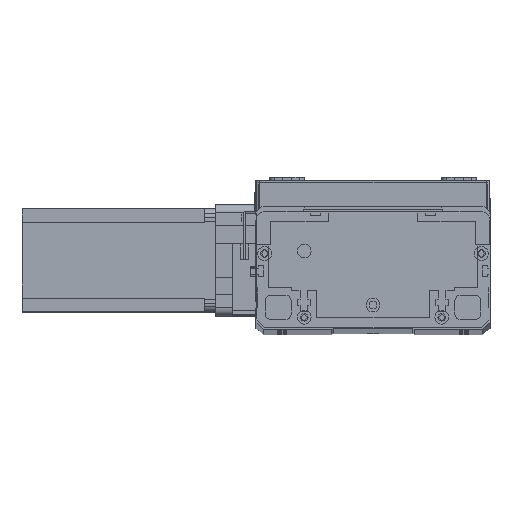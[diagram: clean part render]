
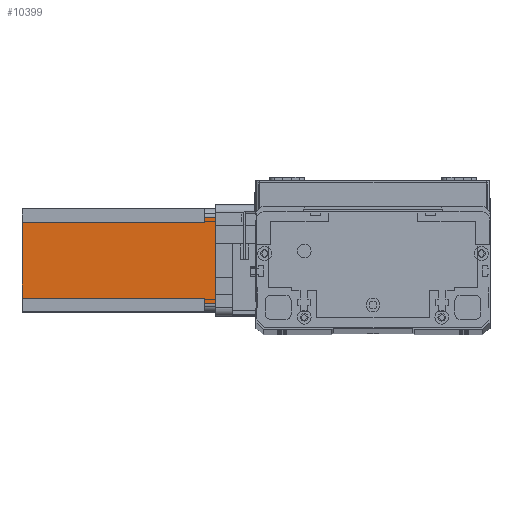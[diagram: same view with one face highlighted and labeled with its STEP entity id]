
A CAD part, top view. The second image highlights one B-rep face of the part: STEP entity #10399.
In plain terms, the highlighted planar face has unit normal (0, 0, 1) as drawn and (0, -1, 0) by its records, which use the part's own axes.
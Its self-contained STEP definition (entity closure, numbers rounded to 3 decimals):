
#991 = ORIENTED_EDGE ( 'NONE', *, *, #16507, .F. ) ;
#1287 = DIRECTION ( 'NONE',  ( -1., 0., 0. ) ) ;
#1807 = CARTESIAN_POINT ( 'NONE',  ( 5., 0., -6.5 ) ) ;
#2048 = DIRECTION ( 'NONE',  ( 1., 0., 0. ) ) ;
#2073 = FACE_OUTER_BOUND ( 'NONE', #12711, .T. ) ;
#2578 = CARTESIAN_POINT ( 'NONE',  ( 8., 0., -6.5 ) ) ;
#2715 = ORIENTED_EDGE ( 'NONE', *, *, #23647, .F. ) ;
#2731 = EDGE_CURVE ( 'NONE', #16647, #4312, #15574, .T. ) ;
#3186 = CARTESIAN_POINT ( 'NONE',  ( 8., 0., -112.5 ) ) ;
#4241 = CARTESIAN_POINT ( 'NONE',  ( 55., 0., -6.5 ) ) ;
#4312 = VERTEX_POINT ( 'NONE', #19018 ) ;
#4737 = VECTOR ( 'NONE', #1287, 1000. ) ;
#5271 = DIRECTION ( 'NONE',  ( 0., 0., 1. ) ) ;
#5548 = ORIENTED_EDGE ( 'NONE', *, *, #19605, .T. ) ;
#7252 = EDGE_CURVE ( 'NONE', #21661, #4312, #10989, .T. ) ;
#7360 = DIRECTION ( 'NONE',  ( 1., 0., 0. ) ) ;
#7480 = ORIENTED_EDGE ( 'NONE', *, *, #10864, .T. ) ;
#8308 = CARTESIAN_POINT ( 'NONE',  ( 5., 0., 0. ) ) ;
#9209 = VERTEX_POINT ( 'NONE', #8308 ) ;
#10399 = ADVANCED_FACE ( 'NONE', ( #2073 ), #23374, .T. ) ;
#10769 = LINE ( 'NONE', #18573, #20990 ) ;
#10864 = EDGE_CURVE ( 'NONE', #21661, #22529, #16612, .T. ) ;
#10989 = LINE ( 'NONE', #25286, #25851 ) ;
#11148 = VECTOR ( 'NONE', #23937, 1000. ) ;
#12711 = EDGE_LOOP ( 'NONE', ( #7480, #13214, #991, #5548, #2715, #18875, #17081, #20743 ) ) ;
#12783 = EDGE_CURVE ( 'NONE', #22529, #22287, #23992, .T. ) ;
#13214 = ORIENTED_EDGE ( 'NONE', *, *, #12783, .T. ) ;
#13283 = DIRECTION ( 'NONE',  ( 0., 0., -1. ) ) ;
#13672 = CARTESIAN_POINT ( 'NONE',  ( 0., 0., -112.5 ) ) ;
#13981 = DIRECTION ( 'NONE',  ( 0., 0., 1. ) ) ;
#14131 = DIRECTION ( 'NONE',  ( 0., 0., -1. ) ) ;
#14352 = VECTOR ( 'NONE', #14131, 1000. ) ;
#15111 = LINE ( 'NONE', #15766, #4737 ) ;
#15535 = LINE ( 'NONE', #3186, #26238 ) ;
#15574 = LINE ( 'NONE', #13672, #20978 ) ;
#15766 = CARTESIAN_POINT ( 'NONE',  ( 8., 0., -6.5 ) ) ;
#16178 = CARTESIAN_POINT ( 'NONE',  ( 5., 0., -112.5 ) ) ;
#16507 = EDGE_CURVE ( 'NONE', #9209, #22287, #10769, .T. ) ;
#16612 = LINE ( 'NONE', #21922, #11148 ) ;
#16647 = VERTEX_POINT ( 'NONE', #21101 ) ;
#17081 = ORIENTED_EDGE ( 'NONE', *, *, #2731, .T. ) ;
#17357 = VECTOR ( 'NONE', #13981, 1000. ) ;
#17910 = CARTESIAN_POINT ( 'NONE',  ( 52., 0., -6.5 ) ) ;
#17975 = CARTESIAN_POINT ( 'NONE',  ( 55., 0., -112.5 ) ) ;
#18278 = VERTEX_POINT ( 'NONE', #2578 ) ;
#18573 = CARTESIAN_POINT ( 'NONE',  ( 0., 0., 0. ) ) ;
#18875 = ORIENTED_EDGE ( 'NONE', *, *, #25441, .F. ) ;
#19018 = CARTESIAN_POINT ( 'NONE',  ( 52., 0., -112.5 ) ) ;
#19605 = EDGE_CURVE ( 'NONE', #9209, #26313, #25059, .T. ) ;
#20427 = AXIS2_PLACEMENT_3D ( 'NONE', #25272, #25353, #13283 ) ;
#20743 = ORIENTED_EDGE ( 'NONE', *, *, #7252, .F. ) ;
#20978 = VECTOR ( 'NONE', #7360, 1000. ) ;
#20990 = VECTOR ( 'NONE', #2048, 1000. ) ;
#21101 = CARTESIAN_POINT ( 'NONE',  ( 8., 0., -112.5 ) ) ;
#21661 = VERTEX_POINT ( 'NONE', #17910 ) ;
#21922 = CARTESIAN_POINT ( 'NONE',  ( 52., 0., -6.5 ) ) ;
#22287 = VERTEX_POINT ( 'NONE', #25656 ) ;
#22529 = VERTEX_POINT ( 'NONE', #4241 ) ;
#23374 = PLANE ( 'NONE',  #20427 ) ;
#23647 = EDGE_CURVE ( 'NONE', #18278, #26313, #15111, .T. ) ;
#23937 = DIRECTION ( 'NONE',  ( 1., 0., 0. ) ) ;
#23992 = LINE ( 'NONE', #17975, #17357 ) ;
#25059 = LINE ( 'NONE', #16178, #14352 ) ;
#25225 = DIRECTION ( 'NONE',  ( 0., 0., -1. ) ) ;
#25272 = CARTESIAN_POINT ( 'NONE',  ( 0., 0., -112.5 ) ) ;
#25286 = CARTESIAN_POINT ( 'NONE',  ( 52., 0., -112.5 ) ) ;
#25353 = DIRECTION ( 'NONE',  ( 0., -1., 0. ) ) ;
#25441 = EDGE_CURVE ( 'NONE', #16647, #18278, #15535, .T. ) ;
#25656 = CARTESIAN_POINT ( 'NONE',  ( 55., 0., 0. ) ) ;
#25851 = VECTOR ( 'NONE', #25225, 1000. ) ;
#26238 = VECTOR ( 'NONE', #5271, 1000. ) ;
#26313 = VERTEX_POINT ( 'NONE', #1807 ) ;
